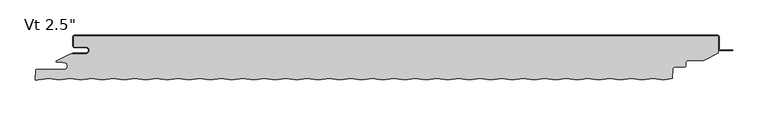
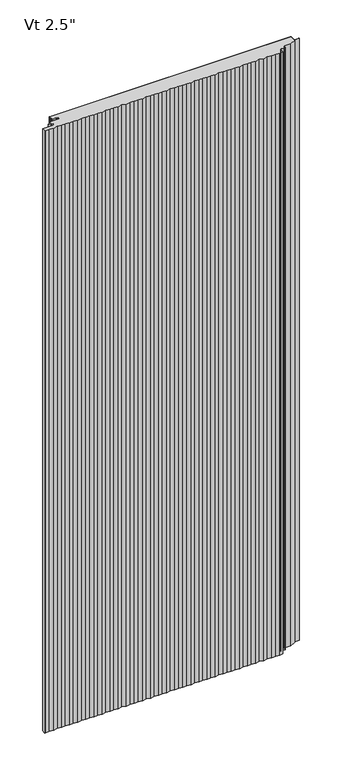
"""IFC4 building model written with IfcOpenShell, lengths in millimetres: plate geometry."""

from ifc_helpers import new_model, si_unit, point, frame_2d, origin, origin_with_axes, place, context, project, spatial, polyline, circle_curve, trimmed, segment, composite_curve, outline, extrude, source, transform, mapped, element, save


def plate_1cd7e0af(model_context):
    return source(origin(), model_context, "Body", "SweptSolid", [
        extrude(outline(composite_curve([segment(polyline([(-438.14375, -16.4625), (-454.01875, -16.4625)]), True, "CONTINUOUS"), segment(trimmed(circle_curve(frame_2d((-454.01875, -15.08125)), 1.38125), [point((-454.01875, -16.4625))], [point((-455.4, -15.08125))], False, "CARTESIAN"), True, "CONTINUOUS"), segment(polyline([(-455.4, -15.08125), (-455.4, -2.38125)]), True, "CONTINUOUS"), segment(trimmed(circle_curve(frame_2d((-454.01875, -2.38125)), 1.38125), [point((-455.4, -2.38125))], [point((-454.01875, -1.0))], False, "CARTESIAN"), True, "CONTINUOUS"), segment(polyline([(-454.01875, -1.0), (454.03125, -1.0)]), True, "CONTINUOUS"), segment(trimmed(circle_curve(frame_2d((454.03125, -2.38125)), 1.38125), [point((454.03125, -1.0))], [point((455.4125, -2.38125))], False, "CARTESIAN"), True, "CONTINUOUS"), segment(polyline([(455.4125, -2.38125), (455.4125, -24.9057308), (434.5955434, -35.5125), (412.1540783, -35.5125)]), True, "CONTINUOUS"), segment(trimmed(circle_curve(frame_2d((412.1540783, -38.1)), 2.5875), [point((412.1540783, -35.5125))], [point((409.5701244, -37.9645807))], True, "CARTESIAN"), True, "CONTINUOUS"), segment(polyline([(409.5701244, -37.9645807), (409.2680481, -43.728539)]), True, "CONTINUOUS"), segment(trimmed(circle_curve(frame_2d((407.8886911, -43.65625)), 1.38125), [point((409.2680481, -43.728539))], [point((407.8886911, -45.0375))], False, "CARTESIAN"), True, "CONTINUOUS"), segment(polyline([(407.8886911, -45.0375), (393.7323847, -45.0375)]), True, "CONTINUOUS"), segment(trimmed(circle_curve(frame_2d((393.7323847, -47.625)), 2.5875), [point((393.7323847, -45.0375))], [point((391.1484307, -47.4895807))], True, "CARTESIAN"), True, "CONTINUOUS"), segment(polyline([(391.1484307, -47.4895807), (390.4106485, -61.5673048), (377.6725, -63.6054086), (362.6350675, -61.1994194), (347.3950675, -63.6378194), (332.1550675, -61.1994194), (316.9150675, -63.6378194), (301.6750675, -61.1994194), (286.4350675, -63.6378194), (271.1950675, -61.1994194), (255.9550675, -63.6378194), (240.7150675, -61.1994194), (225.4750675, -63.6378194), (210.2350675, -61.1994194), (194.9950675, -63.6378194), (179.7550675, -61.1994194), (164.5150675, -63.6378194), (149.2750675, -61.1994194), (134.0350675, -63.6378194), (118.7950675, -61.1994194), (103.5550675, -63.6378194), (88.3150675, -61.1994194), (73.0750675, -63.6378194), (57.8350675, -61.1994194), (42.5950675, -63.6378194), (27.3550675, -61.1994194), (12.1150675, -63.6378194), (-3.1249325, -61.1994194), (-18.3649325, -63.6378194), (-33.6049325, -61.1994194), (-48.8449325, -63.6378194), (-64.0849325, -61.1994194), (-79.3249325, -63.6378194), (-94.5649325, -61.1994194), (-109.8049325, -63.6378194), (-125.0449325, -61.1994194), (-140.2849325, -63.6378194), (-155.5249325, -61.1994194), (-170.7649325, -63.6378194), (-186.0049325, -61.1994194), (-201.2449325, -63.6378194), (-216.4849325, -61.1994194), (-231.7249325, -63.6378194), (-246.9649325, -61.1994194), (-262.2049325, -63.6378194), (-277.4449325, -61.1994194), (-292.6849325, -63.6378194), (-307.9249325, -61.1994194), (-323.1649325, -63.6378194), (-338.4049325, -61.1994194), (-353.6449325, -63.6378194), (-368.8849325, -61.1994194), (-384.1249325, -63.6378194), (-399.3649325, -61.1994194), (-414.6049325, -63.6378194), (-429.8449325, -61.1994194), (-445.0849325, -63.6378194), (-460.3249325, -61.1994194), (-475.5649325, -63.6378194), (-490.8049325, -61.1994194), (-506.0449325, -63.6378194), (-509.3672594, -63.1062471), (-508.6769291, -49.933961)]), True, "CONTINUOUS"), segment(trimmed(circle_curve(frame_2d((-507.2975721, -50.00625)), 1.38125), [point((-508.6769291, -49.933961))], [point((-507.2975721, -48.625))], False, "CARTESIAN"), True, "CONTINUOUS"), segment(polyline([(-507.2975721, -48.625), (-469.1142674, -48.625)]), True, "CONTINUOUS"), segment(trimmed(circle_curve(frame_2d((-469.1142674, -43.65625)), 4.96875), [point((-469.1142674, -48.625))], [point((-469.1142674, -38.6875))], True, "CARTESIAN"), True, "CONTINUOUS"), segment(polyline([(-469.1142674, -38.6875), (-470.7017674, -38.89375), (-470.7017674, -38.1), (-480.2125, -38.1), (-480.2125, -36.5326309), (-460.3260922, -26.4), (-438.14375, -26.4)]), True, "CONTINUOUS"), segment(trimmed(circle_curve(frame_2d((-438.14375, -21.43125)), 4.96875), [point((-438.14375, -26.4))], [point((-438.14375, -16.4625))], True, "CARTESIAN"), True, "CONTINUOUS")], self_intersect=False)), origin_with_axes(), (0.0, 0.0, 1.0), 2400.0),
        extrude(outline(composite_curve([segment(polyline([(-456.4, -25.4), (-438.14375, -25.4)]), True, "CONTINUOUS"), segment(trimmed(circle_curve(frame_2d((-438.14375, -21.43125)), 3.96875), [point((-438.14375, -25.4))], [point((-438.14375, -17.4625))], True, "CARTESIAN"), True, "CONTINUOUS"), segment(polyline([(-438.14375, -17.4625), (-454.01875, -17.4625)]), True, "CONTINUOUS"), segment(trimmed(circle_curve(frame_2d((-454.01875, -15.08125)), 2.38125), [point((-454.01875, -17.4625))], [point((-456.4, -15.08125))], False, "CARTESIAN"), True, "CONTINUOUS"), segment(polyline([(-456.4, -15.08125), (-456.4, -2.38125)]), True, "CONTINUOUS"), segment(trimmed(circle_curve(frame_2d((-454.01875, -2.38125)), 2.38125), [point((-456.4, -2.38125))], [point((-454.01875, 0.0))], False, "CARTESIAN"), True, "CONTINUOUS"), segment(polyline([(-454.01875, 0.0), (454.03125, 0.0)]), True, "CONTINUOUS"), segment(trimmed(circle_curve(frame_2d((454.03125, -2.38125)), 2.38125), [point((454.03125, 0.0))], [point((456.4125, -2.38125))], False, "CARTESIAN"), True, "CONTINUOUS"), segment(polyline([(456.4125, -2.38125), (456.4125, -19.446875)]), True, "CONTINUOUS"), segment(trimmed(circle_curve(frame_2d((458.0, -19.446875)), 1.5875), [point((456.4125, -19.446875))], [point((458.0, -21.034375))], True, "CARTESIAN"), True, "CONTINUOUS"), segment(polyline([(458.0, -21.034375), (475.4625, -21.034375), (475.4625, -22.034375), (458.0, -22.034375)]), True, "CONTINUOUS"), segment(trimmed(circle_curve(frame_2d((458.0, -19.446875)), 2.5875), [point((458.0, -22.034375))], [point((455.4125, -19.446875))], False, "CARTESIAN"), True, "CONTINUOUS"), segment(polyline([(455.4125, -19.446875), (455.4125, -2.38125)]), True, "CONTINUOUS"), segment(trimmed(circle_curve(frame_2d((454.03125, -2.38125)), 1.38125), [point((455.4125, -2.38125))], [point((454.03125, -1.0))], True, "CARTESIAN"), True, "CONTINUOUS"), segment(polyline([(454.03125, -1.0), (-454.01875, -1.0)]), True, "CONTINUOUS"), segment(trimmed(circle_curve(frame_2d((-454.01875, -2.38125)), 1.38125), [point((-454.01875, -1.0))], [point((-455.4, -2.38125))], True, "CARTESIAN"), True, "CONTINUOUS"), segment(polyline([(-455.4, -2.38125), (-455.4, -15.08125)]), True, "CONTINUOUS"), segment(trimmed(circle_curve(frame_2d((-454.01875, -15.08125)), 1.38125), [point((-455.4, -15.08125))], [point((-454.01875, -16.4625))], True, "CARTESIAN"), True, "CONTINUOUS"), segment(polyline([(-454.01875, -16.4625), (-438.14375, -16.4625)]), True, "CONTINUOUS"), segment(trimmed(circle_curve(frame_2d((-438.14375, -21.43125)), 4.96875), [point((-438.14375, -16.4625))], [point((-438.14375, -26.4))], False, "CARTESIAN"), True, "CONTINUOUS"), segment(polyline([(-438.14375, -26.4), (-456.4, -26.4), (-456.4, -25.4)]), True, "CONTINUOUS")], self_intersect=False)), origin_with_axes(), (0.0, 0.0, 1.0), 2400.0),
    ])


if __name__ == "__main__":
    model = new_model("IFC4")
    model_context = context("Model", 3, world=origin())
    ifc_project = project(units=[si_unit("LENGTHUNIT", "METRE", prefix="MILLI")], contexts=[model_context])
    site = spatial("IfcSite", under=ifc_project)
    building = spatial("IfcBuilding", under=site)
    placement = place(None, origin())
    plate_shape = plate_1cd7e0af(model_context)
    element("IfcPlate", 1, ObjectType="KIP-36-DWHR-R19-CP-Vt-S : Vt 2.5\"", at=placement, inside=building, context=model_context, shape_type="MappedRepresentation", body=[
        mapped(plate_shape, transform((0.0, 0.0, 0.0), x_axis=(1.0, 0.0, 0.0), y_axis=(0.0, 1.0, 0.0), z_axis=(0.0, 0.0, 1.0))),
    ])
    save(model, "model.ifc")
